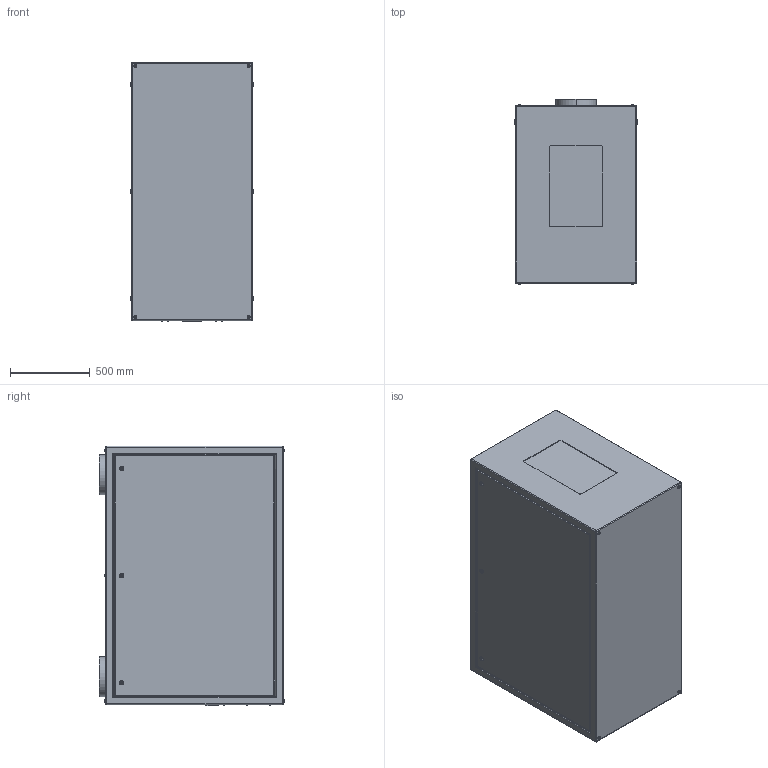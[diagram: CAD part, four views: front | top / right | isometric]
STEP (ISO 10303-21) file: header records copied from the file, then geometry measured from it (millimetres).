
FILE_DESCRIPTION (( 'STEP AP214' ), '1' );
FILE_NAME ('Tacit 56.522.P R08.STEP', '2022-09-11T22:42:00', ( '' ), ( '' ), 'SwSTEP 2.0', 'SolidWorks 2020', '' );
FILE_SCHEMA (( 'AUTOMOTIVE_DESIGN' ));
Length unit declared in the file: inch
Products named in the file (1): Tacit 56.522.P R08
Bounding box: 774.7 x 1162.96 x 1630.68 mm (x, y, z)
Volume: 1382458139.7 mm3; surface area: 8263571.7 mm2
Topology: 1 solids, 7 shells, 401 faces, 892 edges, 560 vertices
Faces by surface type: plane 177, cylinder 168, torus 48, sphere 8
Entity records: 15043 total; most frequent: CARTESIAN_POINT 2414, DIRECTION 1972, ORIENTED_EDGE 1768, EDGE_CURVE 884, AXIS2_PLACEMENT_3D 782, VERTEX_POINT 560, EDGE_LOOP 464, VECTOR 408
